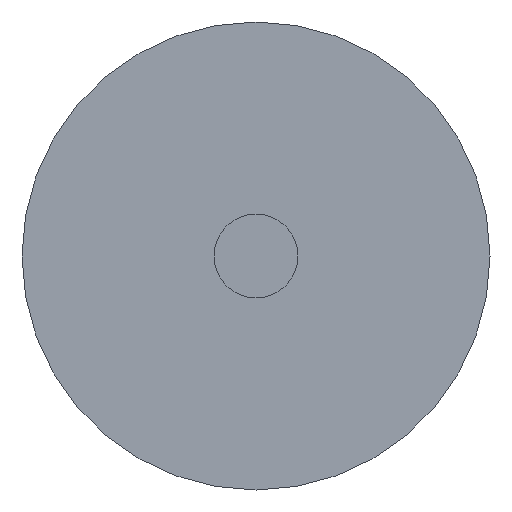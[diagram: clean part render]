
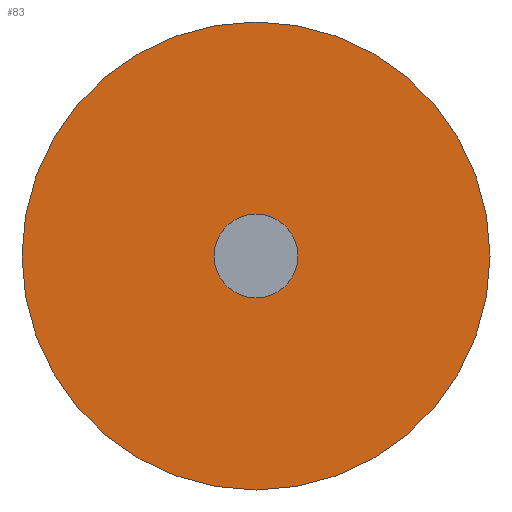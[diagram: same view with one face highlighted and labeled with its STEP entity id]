
A CAD part, front view. The second image highlights one B-rep face of the part: STEP entity #83.
In plain terms, the highlighted planar face has unit normal (0, -1, 0).
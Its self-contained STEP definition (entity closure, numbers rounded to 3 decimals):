
#83 = ADVANCED_FACE( '', ( #180, #181 ), #182, .F. );
#180 = FACE_BOUND( '', #362, .T. );
#181 = FACE_OUTER_BOUND( '', #363, .T. );
#182 = PLANE( '', #364 );
#362 = EDGE_LOOP( '', ( #644 ) );
#363 = EDGE_LOOP( '', ( #645 ) );
#364 = AXIS2_PLACEMENT_3D( '', #646, #647, #648 );
#644 = ORIENTED_EDGE( '', *, *, #1327, .F. );
#645 = ORIENTED_EDGE( '', *, *, #1328, .T. );
#646 = CARTESIAN_POINT( '', ( 16.75, 0., 0. ) );
#647 = DIRECTION( '', ( 0., 1., 0. ) );
#648 = DIRECTION( '', ( 0., 0., 1. ) );
#1327 = EDGE_CURVE( '', #1636, #1636, #1637, .T. );
#1328 = EDGE_CURVE( '', #1638, #1638, #1639, .T. );
#1636 = VERTEX_POINT( '', #2309 );
#1637 = CIRCLE( '', #2310, 3. );
#1638 = VERTEX_POINT( '', #2311 );
#1639 = CIRCLE( '', #2312, 16.75 );
#2309 = CARTESIAN_POINT( '', ( 0., 0., -3. ) );
#2310 = AXIS2_PLACEMENT_3D( '', #2697, #2698, #2699 );
#2311 = CARTESIAN_POINT( '', ( 0., 0., -16.75 ) );
#2312 = AXIS2_PLACEMENT_3D( '', #2700, #2701, #2702 );
#2697 = CARTESIAN_POINT( '', ( 0., 0., 0. ) );
#2698 = DIRECTION( '', ( 0., -1., 0. ) );
#2699 = DIRECTION( '', ( 0., 0., -1. ) );
#2700 = CARTESIAN_POINT( '', ( 0., 0., 0. ) );
#2701 = DIRECTION( '', ( 0., -1., 0. ) );
#2702 = DIRECTION( '', ( 0., 0., -1. ) );
